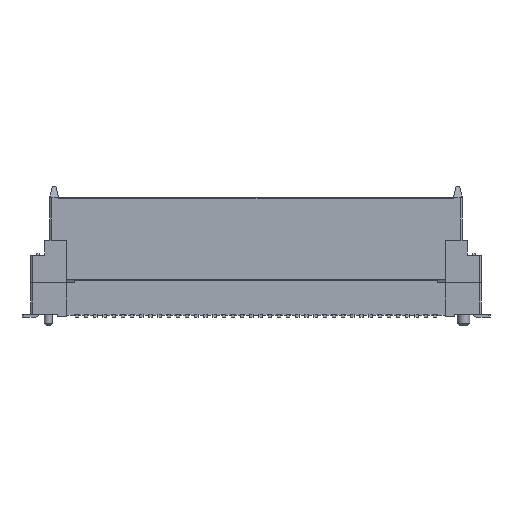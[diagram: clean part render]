
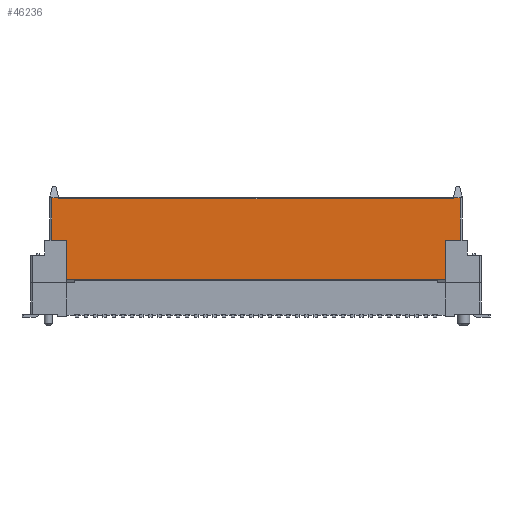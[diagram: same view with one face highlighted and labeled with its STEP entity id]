
A CAD part, front view. The second image highlights one B-rep face of the part: STEP entity #46236.
In plain terms, the highlighted planar face has unit normal (0, -1, 0).
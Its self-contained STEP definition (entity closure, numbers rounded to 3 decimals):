
#43024=CARTESIAN_POINT('Vertex',(-16.55,-2.175,6.65)) ;
#43054=CARTESIAN_POINT('Vertex',(-16.55,-2.175,3.2)) ;
#43057=CARTESIAN_POINT('Line Origine',(-16.55,-2.175,4.925)) ;
#43077=CARTESIAN_POINT('Vertex',(16.55,-2.175,6.65)) ;
#43080=CARTESIAN_POINT('Line Origine',(16.55,-2.175,4.925)) ;
#43084=CARTESIAN_POINT('Vertex',(16.55,-2.175,3.2)) ;
#45269=CARTESIAN_POINT('Vertex',(17.2,-2.175,10.25)) ;
#45285=CARTESIAN_POINT('Vertex',(-17.2,-2.175,10.25)) ;
#45288=CARTESIAN_POINT('Line Origine',(-2.066,-2.175,10.25)) ;
#45325=CARTESIAN_POINT('Vertex',(17.8,-2.175,6.65)) ;
#45328=CARTESIAN_POINT('Line Origine',(17.5,-2.175,6.65)) ;
#45332=CARTESIAN_POINT('Vertex',(17.2,-2.175,6.65)) ;
#45335=CARTESIAN_POINT('Line Origine',(16.875,-2.175,6.65)) ;
#45399=CARTESIAN_POINT('Line Origine',(-16.875,-2.175,6.65)) ;
#45403=CARTESIAN_POINT('Vertex',(-17.2,-2.175,6.65)) ;
#45406=CARTESIAN_POINT('Line Origine',(-17.5,-2.175,6.65)) ;
#45410=CARTESIAN_POINT('Vertex',(-17.8,-2.175,6.65)) ;
#45759=CARTESIAN_POINT('Line Origine',(17.2,-2.175,10.3)) ;
#45763=CARTESIAN_POINT('Vertex',(17.2,-2.175,10.35)) ;
#45781=CARTESIAN_POINT('Vertex',(-17.2,-2.175,10.35)) ;
#45784=CARTESIAN_POINT('Line Origine',(-17.2,-2.175,10.3)) ;
#45841=CARTESIAN_POINT('Line Origine',(-17.8,-2.175,7.275)) ;
#45845=CARTESIAN_POINT('Vertex',(-17.8,-2.175,10.35)) ;
#45885=CARTESIAN_POINT('Line Origine',(0.,-2.175,10.35)) ;
#46173=CARTESIAN_POINT('Line Origine',(17.8,-2.175,7.275)) ;
#46177=CARTESIAN_POINT('Vertex',(17.8,-2.175,10.35)) ;
#46205=CARTESIAN_POINT('Axis2P3D Location',(0.,-2.175,6.65)) ;
#46210=CARTESIAN_POINT('Line Origine',(17.5,-2.175,10.35)) ;
#46215=CARTESIAN_POINT('Line Origine',(0.,-2.175,3.2)) ;
#43058=DIRECTION('Vector Direction',(0.,0.,-1.)) ;
#43081=DIRECTION('Vector Direction',(0.,0.,-1.)) ;
#45289=DIRECTION('Vector Direction',(1.,0.,0.)) ;
#45329=DIRECTION('Vector Direction',(1.,0.,0.)) ;
#45336=DIRECTION('Vector Direction',(1.,0.,0.)) ;
#45400=DIRECTION('Vector Direction',(1.,0.,0.)) ;
#45407=DIRECTION('Vector Direction',(-1.,0.,0.)) ;
#45760=DIRECTION('Vector Direction',(0.,0.,1.)) ;
#45785=DIRECTION('Vector Direction',(0.,0.,1.)) ;
#45842=DIRECTION('Vector Direction',(0.,0.,1.)) ;
#45886=DIRECTION('Vector Direction',(-1.,0.,0.)) ;
#46174=DIRECTION('Vector Direction',(0.,0.,1.)) ;
#46206=DIRECTION('Axis2P3D Direction',(0.,1.,0.)) ;
#46207=DIRECTION('Axis2P3D XDirection',(0.,0.,1.)) ;
#46211=DIRECTION('Vector Direction',(-1.,0.,0.)) ;
#46216=DIRECTION('Vector Direction',(-1.,0.,0.)) ;
#46208=AXIS2_PLACEMENT_3D('Plane Axis2P3D',#46205,#46206,#46207) ;
#46221=ORIENTED_EDGE('',*,*,#46214,.F.) ;
#46222=ORIENTED_EDGE('',*,*,#45765,.F.) ;
#46223=ORIENTED_EDGE('',*,*,#45292,.F.) ;
#46224=ORIENTED_EDGE('',*,*,#45788,.F.) ;
#46225=ORIENTED_EDGE('',*,*,#45889,.F.) ;
#46226=ORIENTED_EDGE('',*,*,#45847,.F.) ;
#46227=ORIENTED_EDGE('',*,*,#45412,.T.) ;
#46228=ORIENTED_EDGE('',*,*,#45405,.T.) ;
#46229=ORIENTED_EDGE('',*,*,#43061,.T.) ;
#46230=ORIENTED_EDGE('',*,*,#46219,.F.) ;
#46231=ORIENTED_EDGE('',*,*,#43086,.F.) ;
#46232=ORIENTED_EDGE('',*,*,#45339,.T.) ;
#46233=ORIENTED_EDGE('',*,*,#45334,.T.) ;
#46234=ORIENTED_EDGE('',*,*,#46179,.T.) ;
#43059=VECTOR('Line Direction',#43058,1.) ;
#43082=VECTOR('Line Direction',#43081,1.) ;
#45290=VECTOR('Line Direction',#45289,1.) ;
#45330=VECTOR('Line Direction',#45329,1.) ;
#45337=VECTOR('Line Direction',#45336,1.) ;
#45401=VECTOR('Line Direction',#45400,1.) ;
#45408=VECTOR('Line Direction',#45407,1.) ;
#45761=VECTOR('Line Direction',#45760,1.) ;
#45786=VECTOR('Line Direction',#45785,1.) ;
#45843=VECTOR('Line Direction',#45842,1.) ;
#45887=VECTOR('Line Direction',#45886,1.) ;
#46175=VECTOR('Line Direction',#46174,1.) ;
#46212=VECTOR('Line Direction',#46211,1.) ;
#46217=VECTOR('Line Direction',#46216,1.) ;
#46236=ADVANCED_FACE('\X2\585180F6\X0\2',(#46235),#46209,.F.) ;
#43061=EDGE_CURVE('',#43025,#43055,#43060,.T.) ;
#43086=EDGE_CURVE('',#43078,#43085,#43083,.T.) ;
#45292=EDGE_CURVE('',#45286,#45270,#45291,.T.) ;
#45334=EDGE_CURVE('',#45333,#45326,#45331,.T.) ;
#45339=EDGE_CURVE('',#43078,#45333,#45338,.T.) ;
#45405=EDGE_CURVE('',#45404,#43025,#45402,.T.) ;
#45412=EDGE_CURVE('',#45411,#45404,#45409,.F.) ;
#45765=EDGE_CURVE('',#45270,#45764,#45762,.T.) ;
#45788=EDGE_CURVE('',#45782,#45286,#45787,.F.) ;
#45847=EDGE_CURVE('',#45411,#45846,#45844,.T.) ;
#45889=EDGE_CURVE('',#45846,#45782,#45888,.F.) ;
#46179=EDGE_CURVE('',#45326,#46178,#46176,.T.) ;
#46214=EDGE_CURVE('',#45764,#46178,#46213,.F.) ;
#46219=EDGE_CURVE('',#43085,#43055,#46218,.T.) ;
#46220=EDGE_LOOP('',(#46221,#46222,#46223,#46224,#46225,#46226,#46227,#46228,#46229,#46230,#46231,#46232,#46233,#46234)) ;
#46235=FACE_OUTER_BOUND('',#46220,.T.) ;
#43060=LINE('Line',#43057,#43059) ;
#43083=LINE('Line',#43080,#43082) ;
#45291=LINE('Line',#45288,#45290) ;
#45331=LINE('Line',#45328,#45330) ;
#45338=LINE('Line',#45335,#45337) ;
#45402=LINE('Line',#45399,#45401) ;
#45409=LINE('Line',#45406,#45408) ;
#45762=LINE('Line',#45759,#45761) ;
#45787=LINE('Line',#45784,#45786) ;
#45844=LINE('Line',#45841,#45843) ;
#45888=LINE('Line',#45885,#45887) ;
#46176=LINE('Line',#46173,#46175) ;
#46213=LINE('Line',#46210,#46212) ;
#46218=LINE('Line',#46215,#46217) ;
#46209=PLANE('Plane',#46208) ;
#43025=VERTEX_POINT('',#43024) ;
#43055=VERTEX_POINT('',#43054) ;
#43078=VERTEX_POINT('',#43077) ;
#43085=VERTEX_POINT('',#43084) ;
#45270=VERTEX_POINT('',#45269) ;
#45286=VERTEX_POINT('',#45285) ;
#45326=VERTEX_POINT('',#45325) ;
#45333=VERTEX_POINT('',#45332) ;
#45404=VERTEX_POINT('',#45403) ;
#45411=VERTEX_POINT('',#45410) ;
#45764=VERTEX_POINT('',#45763) ;
#45782=VERTEX_POINT('',#45781) ;
#45846=VERTEX_POINT('',#45845) ;
#46178=VERTEX_POINT('',#46177) ;
